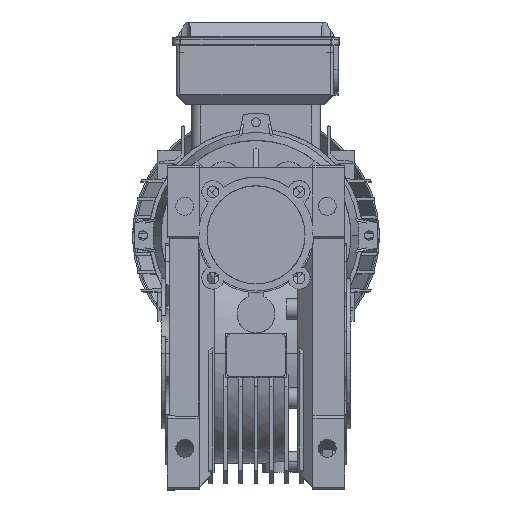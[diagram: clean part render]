
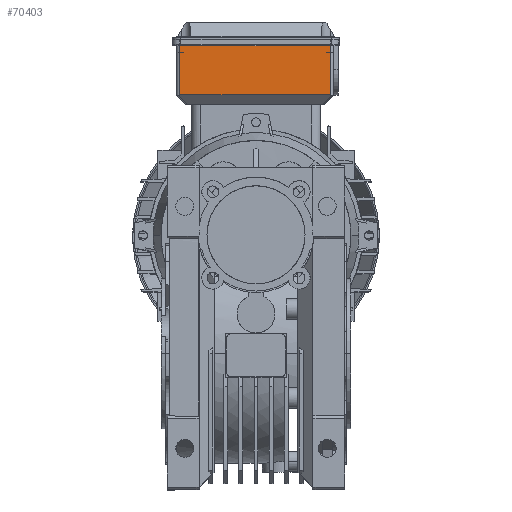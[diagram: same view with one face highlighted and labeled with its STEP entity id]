
A CAD part, top view. The second image highlights one B-rep face of the part: STEP entity #70403.
In plain terms, the highlighted planar face has unit normal (0, 0, 1) as drawn and (-1, 0, 0) by its records, which use the part's own axes.
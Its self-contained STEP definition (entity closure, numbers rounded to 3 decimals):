
#12234 = DIRECTION ( 'NONE',  ( 0., 0., -1. ) ) ;
#12250 = DIRECTION ( 'NONE',  ( 0., 0., 1. ) ) ;
#12253 = CARTESIAN_POINT ( 'NONE',  ( -49.75, -37., 49.75 ) ) ;
#12262 = CARTESIAN_POINT ( 'NONE',  ( -49.75, -5., -47.5 ) ) ;
#12388 = CARTESIAN_POINT ( 'NONE',  ( -49.75, -43., 47.55 ) ) ;
#12389 = CARTESIAN_POINT ( 'NONE',  ( -49.75, -43., -47.55 ) ) ;
#12414 = DIRECTION ( 'NONE',  ( 0., -1., 0. ) ) ;
#12416 = DIRECTION ( 'NONE',  ( 0., 1., 0. ) ) ;
#27735 = FACE_OUTER_BOUND ( 'NONE', #115417, .T. ) ;
#35308 = AXIS2_PLACEMENT_3D ( 'NONE', #38284, #38226, #38249 ) ;
#38226 = DIRECTION ( 'NONE',  ( 1., 0., 0. ) ) ;
#38249 = DIRECTION ( 'NONE',  ( 0., 0., -1. ) ) ;
#38281 = PLANE ( 'NONE',  #35308 ) ;
#38284 = CARTESIAN_POINT ( 'NONE',  ( -49.75, -43., 49.75 ) ) ;
#39009 = CARTESIAN_POINT ( 'NONE',  ( -49.75, -5., 47.55 ) ) ;
#39060 = CARTESIAN_POINT ( 'NONE',  ( -49.75, -37., 47.55 ) ) ;
#39130 = CARTESIAN_POINT ( 'NONE',  ( -49.75, -37., -47.55 ) ) ;
#39156 = CARTESIAN_POINT ( 'NONE',  ( -49.75, -5., -47.55 ) ) ;
#57710 = EDGE_CURVE ( 'NONE', #79948, #79986, #107159, .T. ) ;
#57715 = EDGE_CURVE ( 'NONE', #80011, #79937, #107176, .T. ) ;
#57773 = EDGE_CURVE ( 'NONE', #79937, #79948, #107402, .T. ) ;
#57778 = EDGE_CURVE ( 'NONE', #79986, #80011, #107403, .T. ) ;
#63971 = ORIENTED_EDGE ( 'NONE', *, *, #57710, .F. ) ;
#63974 = ORIENTED_EDGE ( 'NONE', *, *, #57773, .F. ) ;
#64023 = ORIENTED_EDGE ( 'NONE', *, *, #57778, .F. ) ;
#64027 = ORIENTED_EDGE ( 'NONE', *, *, #57715, .F. ) ;
#70403 = ADVANCED_FACE ( 'NONE', ( #27735 ), #38281, .F. ) ;
#79937 = VERTEX_POINT ( 'NONE', #39009 ) ;
#79948 = VERTEX_POINT ( 'NONE', #39060 ) ;
#79986 = VERTEX_POINT ( 'NONE', #39130 ) ;
#80011 = VERTEX_POINT ( 'NONE', #39156 ) ;
#107096 = VECTOR ( 'NONE', #12234, 1000. ) ;
#107128 = VECTOR ( 'NONE', #12250, 1000. ) ;
#107159 = LINE ( 'NONE', #12253, #107096 ) ;
#107176 = LINE ( 'NONE', #12262, #107128 ) ;
#107363 = VECTOR ( 'NONE', #12414, 1000. ) ;
#107365 = VECTOR ( 'NONE', #12416, 1000. ) ;
#107402 = LINE ( 'NONE', #12388, #107363 ) ;
#107403 = LINE ( 'NONE', #12389, #107365 ) ;
#115417 = EDGE_LOOP ( 'NONE', ( #63971, #63974, #64027, #64023 ) ) ;
